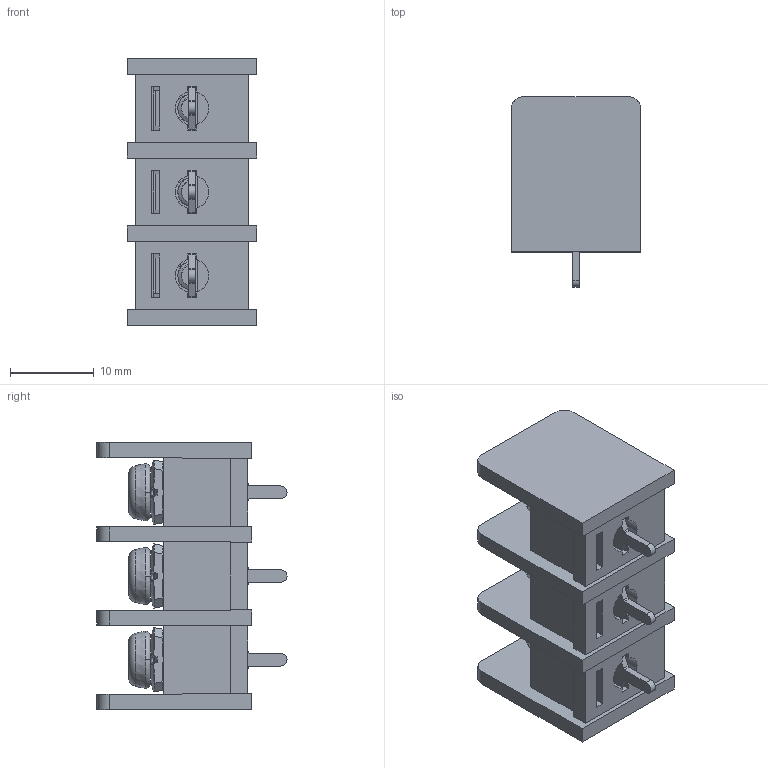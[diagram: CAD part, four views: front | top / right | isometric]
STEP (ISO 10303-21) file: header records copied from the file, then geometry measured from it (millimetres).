
FILE_DESCRIPTION((''),'2;1');
FILE_NAME('3PIN','2021-05-27T',('hanke'),(''),'CREO PARAMETRIC BY PTC INC, 2016260','CREO PARAMETRIC BY PTC INC, 2016260','');
FILE_SCHEMA(('CONFIG_CONTROL_DESIGN'));
Products named in the file (1): 3PIN
Bounding box: 15.5 x 22.7 x 32 mm (x, y, z)
Volume: 4097.7 mm3; surface area: 6359.7 mm2
Topology: 1 solids, 1 shells, 1031 faces, 3189 edges, 2085 vertices
Faces by surface type: plane 615, cylinder 197, bspline 162, torus 42, cone 15
Entity records: 60042 total; most frequent: CARTESIAN_POINT 33395, ORIENTED_EDGE 6366, DIRECTION 4481, EDGE_CURVE 3183, VERTEX_POINT 2085, VECTOR 1841, LINE 1841, AXIS2_PLACEMENT_3D 1320
